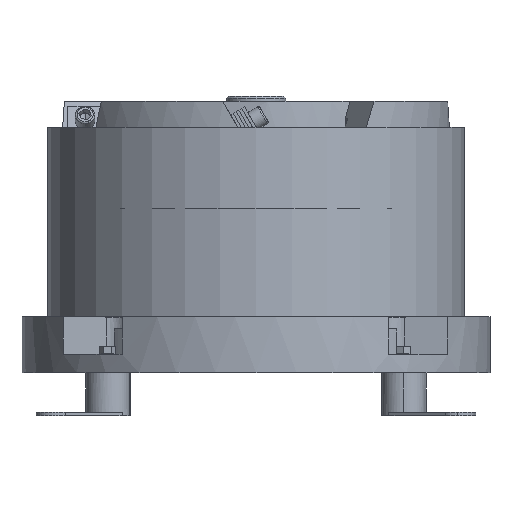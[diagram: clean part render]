
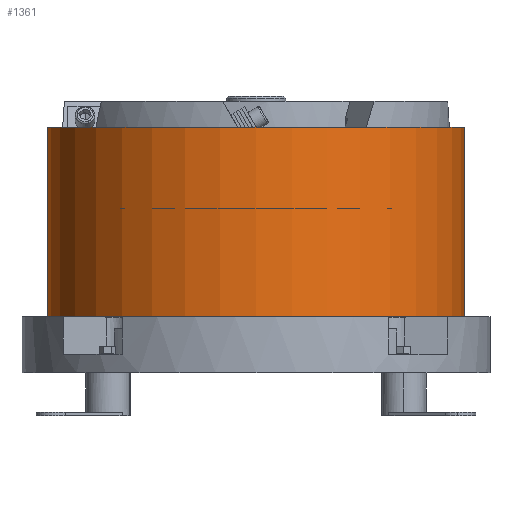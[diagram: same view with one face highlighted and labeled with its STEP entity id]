
A CAD part, front view. The second image highlights one B-rep face of the part: STEP entity #1361.
In plain terms, the highlighted cylindrical face has radius 193 mm (diameter 386 mm), a partial arc.
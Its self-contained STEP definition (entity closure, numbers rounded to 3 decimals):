
#589=CYLINDRICAL_SURFACE('',#9675,193.);
#870=FACE_OUTER_BOUND('',#2902,.T.);
#1361=ADVANCED_FACE('NONE',(#870),#589,.T.);
#2148=CIRCLE('',#9668,193.);
#2150=CIRCLE('',#9671,193.);
#2902=EDGE_LOOP('',(#4126,#4127,#4128,#4129));
#4126=ORIENTED_EDGE('',*,*,#7074,.F.);
#4127=ORIENTED_EDGE('',*,*,#7069,.T.);
#4128=ORIENTED_EDGE('',*,*,#7075,.T.);
#4129=ORIENTED_EDGE('',*,*,#7071,.T.);
#6098=VERTEX_POINT('',#13976);
#6099=VERTEX_POINT('',#13977);
#6100=VERTEX_POINT('',#13982);
#6101=VERTEX_POINT('',#13983);
#7069=EDGE_CURVE('NONE',#6099,#6098,#2148,.T.);
#7071=EDGE_CURVE('NONE',#6100,#6101,#2150,.T.);
#7074=EDGE_CURVE('NONE',#6099,#6101,#8213,.T.);
#7075=EDGE_CURVE('NONE',#6098,#6100,#8214,.T.);
#8213=LINE('',#13987,#8940);
#8214=LINE('',#13988,#8941);
#8940=VECTOR('',#11266,1.);
#8941=VECTOR('',#11267,1.);
#9668=AXIS2_PLACEMENT_3D('',#13978,#11252,#11253);
#9671=AXIS2_PLACEMENT_3D('',#13981,#11258,#11259);
#9675=AXIS2_PLACEMENT_3D('',#13989,#11268,#11269);
#11252=DIRECTION('',(0.,0.,1.));
#11253=DIRECTION('',(1.,0.,0.));
#11258=DIRECTION('',(0.,0.,-1.));
#11259=DIRECTION('',(1.,0.,0.));
#11266=DIRECTION('',(0.,0.,1.));
#11267=DIRECTION('',(0.,0.,1.));
#11268=DIRECTION('',(0.,0.,1.));
#11269=DIRECTION('',(1.,0.,0.));
#13976=CARTESIAN_POINT('',(-165.481,112.006,-159.48));
#13977=CARTESIAN_POINT('',(-551.481,112.006,-159.48));
#13978=CARTESIAN_POINT('',(-358.481,112.006,-159.48));
#13981=CARTESIAN_POINT('',(-358.481,112.006,15.52));
#13982=CARTESIAN_POINT('',(-165.481,112.006,15.52));
#13983=CARTESIAN_POINT('',(-551.481,112.006,15.52));
#13987=CARTESIAN_POINT('',(-551.481,112.006,-159.48));
#13988=CARTESIAN_POINT('',(-165.481,112.006,-159.48));
#13989=CARTESIAN_POINT('',(-358.481,112.006,-159.48));
